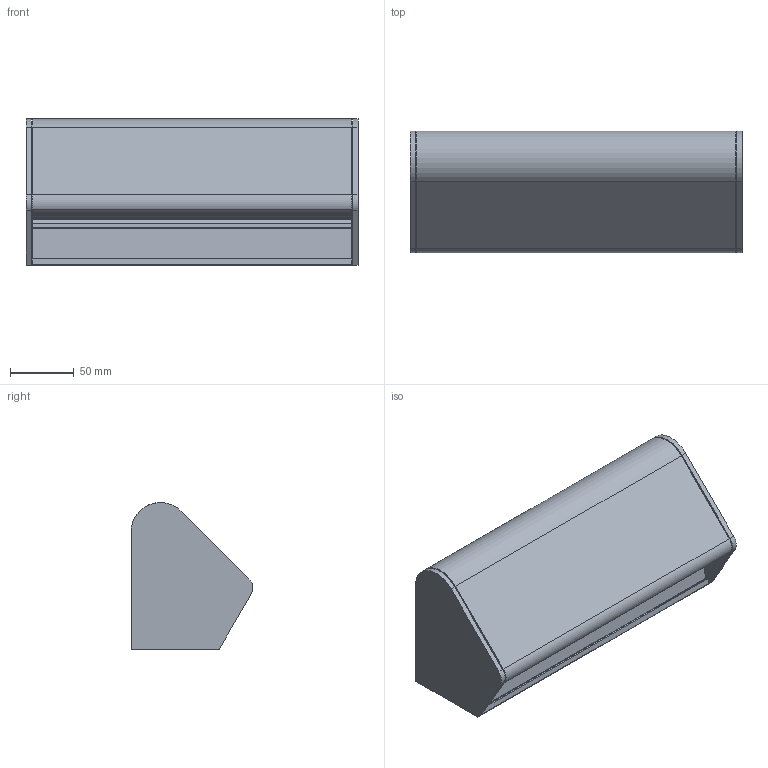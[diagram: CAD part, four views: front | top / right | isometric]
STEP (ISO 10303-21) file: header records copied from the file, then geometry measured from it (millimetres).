
FILE_DESCRIPTION (( 'STEP AP203' ), '1' );
FILE_NAME ('GILLES - 3D WEB.STEP', '2022-12-30T10:52:49', ( '' ), ( '' ), 'SwSTEP 2.0', 'SolidWorks 2014', '' );
FILE_SCHEMA (( 'CONFIG_CONTROL_DESIGN' ));
Length unit declared in the file: millimetre
Products named in the file (1): GILLES - 3D WEB
Bounding box: 260 x 95 x 114.95 mm (x, y, z)
Volume: 1791467.6 mm3; surface area: 238647.1 mm2
Topology: 7 solids, 7 shells, 142 faces, 384 edges, 256 vertices
Faces by surface type: plane 82, cylinder 60
Entity records: 4553 total; most frequent: DIRECTION 790, CARTESIAN_POINT 783, ORIENTED_EDGE 768, EDGE_CURVE 384, LINE 264, VECTOR 264, AXIS2_PLACEMENT_3D 263, VERTEX_POINT 256
